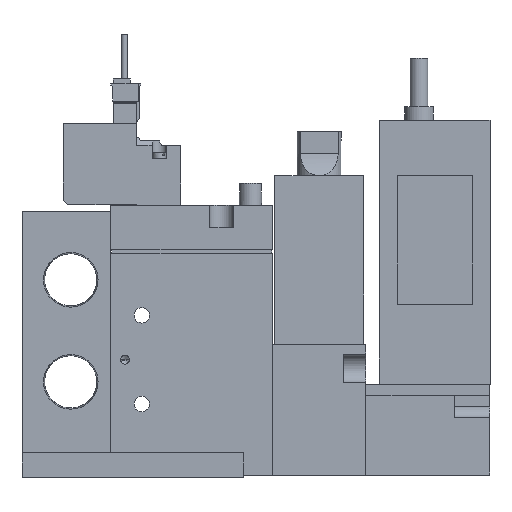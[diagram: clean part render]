
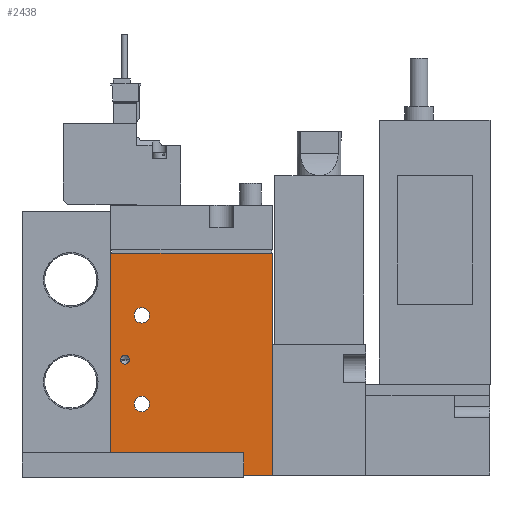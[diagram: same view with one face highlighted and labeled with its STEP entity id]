
A CAD part, left-side view. The second image highlights one B-rep face of the part: STEP entity #2438.
In plain terms, the highlighted planar face has unit normal (-1, 0, 0) as drawn and (1, 0, 0) by its records, which use the part's own axes.
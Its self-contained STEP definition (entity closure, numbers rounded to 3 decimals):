
#2438=ADVANCED_FACE('',(#3723,#3724,#3725,#3726),#3727,.F.);
#3723=FACE_BOUND('',#6440,.T.);
#3724=FACE_BOUND('',#6441,.T.);
#3725=FACE_BOUND('',#6442,.T.);
#3726=FACE_OUTER_BOUND('',#6443,.T.);
#3727=PLANE('',#6444);
#6440=EDGE_LOOP('',(#9541));
#6441=EDGE_LOOP('',(#9542));
#6442=EDGE_LOOP('',(#9543));
#6443=EDGE_LOOP('',(#9544,#9545,#9546,#9547));
#6444=AXIS2_PLACEMENT_3D('',#9548,#9549,#9550);
#9541=ORIENTED_EDGE('',*,*,#18202,.F.);
#9542=ORIENTED_EDGE('',*,*,#18203,.T.);
#9543=ORIENTED_EDGE('',*,*,#18204,.T.);
#9544=ORIENTED_EDGE('',*,*,#18205,.T.);
#9545=ORIENTED_EDGE('',*,*,#18206,.F.);
#9546=ORIENTED_EDGE('',*,*,#18207,.F.);
#9547=ORIENTED_EDGE('',*,*,#18208,.T.);
#9548=CARTESIAN_POINT('',(8.5,-19.444,50.0));
#9549=DIRECTION('',(-1.0,0.0,0.0));
#9550=DIRECTION('',(0.0,0.0,1.0));
#18202=EDGE_CURVE('',#21113,#21113,#21114,.T.);
#18203=EDGE_CURVE('',#21115,#21115,#21116,.T.);
#18204=EDGE_CURVE('',#21117,#21117,#21118,.T.);
#18205=EDGE_CURVE('',#21119,#21120,#21121,.T.);
#18206=EDGE_CURVE('',#21122,#21120,#21123,.T.);
#18207=EDGE_CURVE('',#21124,#21122,#21125,.T.);
#18208=EDGE_CURVE('',#21124,#21119,#21126,.T.);
#21113=VERTEX_POINT('',#26014);
#21114=CIRCLE('',#26015,1.0);
#21115=VERTEX_POINT('',#26016);
#21116=CIRCLE('',#26017,1.75);
#21117=VERTEX_POINT('',#26018);
#21118=CIRCLE('',#26019,1.75);
#21119=VERTEX_POINT('',#26020);
#21120=VERTEX_POINT('',#26021);
#21121=LINE('',#26022,#26023);
#21122=VERTEX_POINT('',#26024);
#21123=LINE('',#26025,#26026);
#21124=VERTEX_POINT('',#26027);
#21125=LINE('',#26028,#26029);
#21126=LINE('',#26030,#26031);
#26014=CARTESIAN_POINT('',(8.5,-17.244,26.0));
#26015=AXIS2_PLACEMENT_3D('',#32936,#32937,#32938);
#26016=CARTESIAN_POINT('',(8.5,-10.694,36.0));
#26017=AXIS2_PLACEMENT_3D('',#32939,#32940,#32941);
#26018=CARTESIAN_POINT('',(8.5,-10.694,16.0));
#26019=AXIS2_PLACEMENT_3D('',#32942,#32943,#32944);
#26020=CARTESIAN_POINT('',(8.5,-19.444,0.0));
#26021=CARTESIAN_POINT('',(8.5,17.056,0.0));
#26022=CARTESIAN_POINT('',(8.5,-19.444,0.0));
#26023=VECTOR('',#32945,1.0);
#26024=CARTESIAN_POINT('',(8.5,17.056,50.0));
#26025=CARTESIAN_POINT('',(8.5,17.056,50.0));
#26026=VECTOR('',#32946,1.0);
#26027=CARTESIAN_POINT('',(8.5,-19.444,50.0));
#26028=CARTESIAN_POINT('',(8.5,-19.444,50.0));
#26029=VECTOR('',#32947,1.0);
#26030=CARTESIAN_POINT('',(8.5,-19.444,50.0));
#26031=VECTOR('',#32948,1.0);
#32936=CARTESIAN_POINT('',(8.5,-16.244,26.0));
#32937=DIRECTION('',(1.0,0.,0.0));
#32938=DIRECTION('',(0.,-1.0,0.0));
#32939=CARTESIAN_POINT('',(8.5,-12.444,36.0));
#32940=DIRECTION('',(-1.0,0.0,0.0));
#32941=DIRECTION('',(0.0,1.0,0.0));
#32942=CARTESIAN_POINT('',(8.5,-12.444,16.0));
#32943=DIRECTION('',(-1.0,0.0,0.0));
#32944=DIRECTION('',(0.0,1.0,0.0));
#32945=DIRECTION('',(0.0,1.0,0.0));
#32946=DIRECTION('',(0.0,0.0,-1.0));
#32947=DIRECTION('',(0.0,1.0,0.0));
#32948=DIRECTION('',(0.0,0.0,-1.0));
